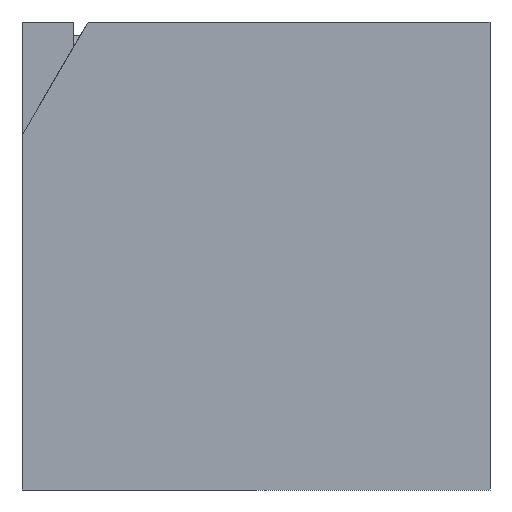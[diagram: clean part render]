
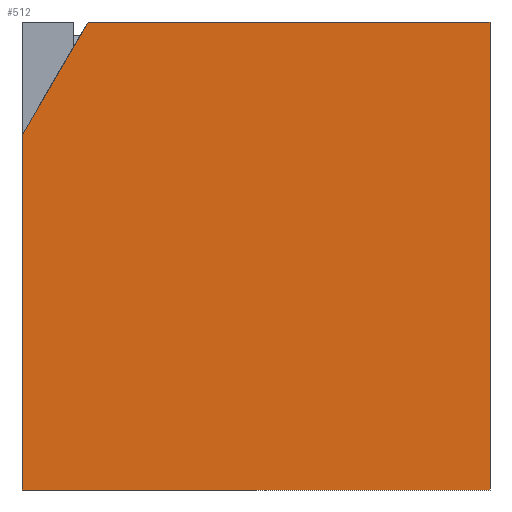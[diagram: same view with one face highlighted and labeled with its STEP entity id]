
A CAD part, left-side view. The second image highlights one B-rep face of the part: STEP entity #512.
In plain terms, the highlighted planar face has unit normal (-1, 0, 0).
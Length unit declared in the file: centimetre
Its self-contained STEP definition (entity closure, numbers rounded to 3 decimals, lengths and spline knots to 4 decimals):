
#35 = CARTESIAN_POINT ( 'NONE',  ( 0., 0., 1000. ) ) ;
#67 = EDGE_CURVE ( 'NONE', #956, #515, #972, .T. ) ;
#74 = ORIENTED_EDGE ( 'NONE', *, *, #922, .T. ) ;
#206 = VECTOR ( 'NONE', #723, 100. ) ;
#221 = DIRECTION ( 'NONE',  ( 0., 0., -1. ) ) ;
#234 = CARTESIAN_POINT ( 'NONE',  ( 0., 1000., 0. ) ) ;
#256 = VERTEX_POINT ( 'NONE', #840 ) ;
#280 = VECTOR ( 'NONE', #312, 100. ) ;
#312 = DIRECTION ( 'NONE',  ( 0., -1., 0. ) ) ;
#370 = AXIS2_PLACEMENT_3D ( 'NONE', #1060, #722, #221 ) ;
#388 = ORIENTED_EDGE ( 'NONE', *, *, #431, .F. ) ;
#426 = EDGE_LOOP ( 'NONE', ( #433, #388, #994, #74, #474 ) ) ;
#431 = EDGE_CURVE ( 'NONE', #525, #256, #1063, .T. ) ;
#433 = ORIENTED_EDGE ( 'NONE', *, *, #488, .F. ) ;
#471 = FACE_OUTER_BOUND ( 'NONE', #426, .T. ) ;
#474 = ORIENTED_EDGE ( 'NONE', *, *, #67, .F. ) ;
#486 = CARTESIAN_POINT ( 'NONE',  ( 0., 1000., 0. ) ) ;
#488 = EDGE_CURVE ( 'NONE', #256, #956, #930, .T. ) ;
#504 = VECTOR ( 'NONE', #902, 100. ) ;
#512 = ADVANCED_FACE ( 'NONE', ( #471 ), #820, .F. ) ;
#515 = VERTEX_POINT ( 'NONE', #911 ) ;
#525 = VERTEX_POINT ( 'NONE', #557 ) ;
#557 = CARTESIAN_POINT ( 'NONE',  ( 0., 1000., 757.8952 ) ) ;
#559 = VERTEX_POINT ( 'NONE', #486 ) ;
#567 = CARTESIAN_POINT ( 'NONE',  ( 0., 0., 1000. ) ) ;
#572 = LINE ( 'NONE', #808, #1055 ) ;
#673 = EDGE_CURVE ( 'NONE', #525, #559, #572, .T. ) ;
#722 = DIRECTION ( 'NONE',  ( 1., 0., 0. ) ) ;
#723 = DIRECTION ( 'NONE',  ( 0., 0., -1. ) ) ;
#808 = CARTESIAN_POINT ( 'NONE',  ( 0., 1000., 1000. ) ) ;
#820 = PLANE ( 'NONE',  #370 ) ;
#840 = CARTESIAN_POINT ( 'NONE',  ( 0., 858.9336, 1000. ) ) ;
#867 = DIRECTION ( 'NONE',  ( 0., 0., -1. ) ) ;
#877 = CARTESIAN_POINT ( 'NONE',  ( 0., 1000., 1000. ) ) ;
#881 = VECTOR ( 'NONE', #1047, 100. ) ;
#902 = DIRECTION ( 'NONE',  ( 0., -0.503, 0.864 ) ) ;
#911 = CARTESIAN_POINT ( 'NONE',  ( 0., 0., 0. ) ) ;
#922 = EDGE_CURVE ( 'NONE', #559, #515, #925, .T. ) ;
#925 = LINE ( 'NONE', #234, #280 ) ;
#930 = LINE ( 'NONE', #877, #881 ) ;
#956 = VERTEX_POINT ( 'NONE', #35 ) ;
#972 = LINE ( 'NONE', #567, #206 ) ;
#994 = ORIENTED_EDGE ( 'NONE', *, *, #673, .T. ) ;
#1047 = DIRECTION ( 'NONE',  ( 0., -1., 0. ) ) ;
#1055 = VECTOR ( 'NONE', #867, 100. ) ;
#1060 = CARTESIAN_POINT ( 'NONE',  ( 0., 1000., 1000. ) ) ;
#1063 = LINE ( 'NONE', #1087, #504 ) ;
#1087 = CARTESIAN_POINT ( 'NONE',  ( 0., 858.9336, 1000. ) ) ;
